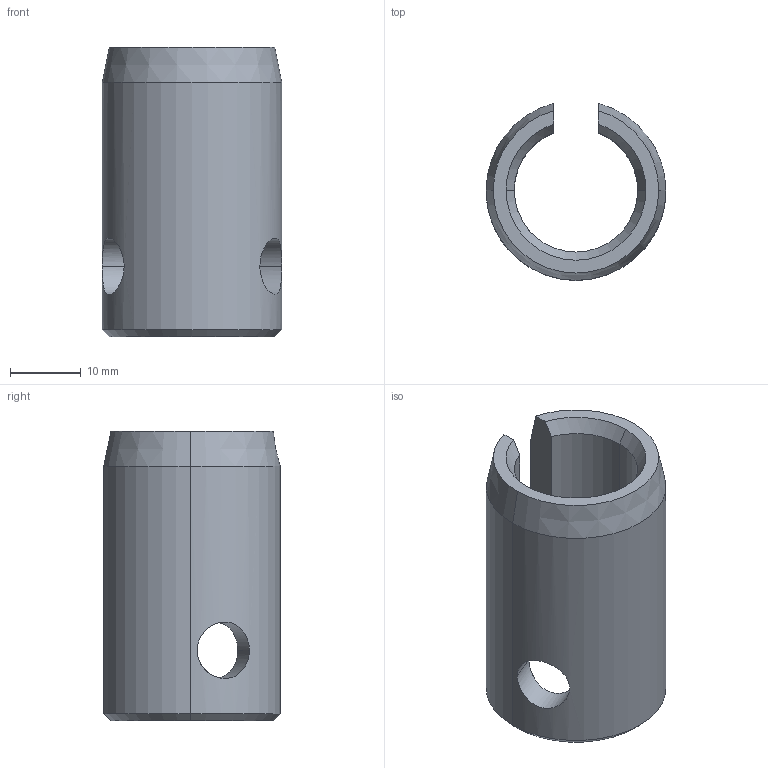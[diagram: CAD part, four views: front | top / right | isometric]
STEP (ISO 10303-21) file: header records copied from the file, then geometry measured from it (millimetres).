
FILE_DESCRIPTION (( 'STEP AP203' ), '1' );
FILE_NAME ('KBSH045P11.STEP', '2023-08-01T03:56:46', ( '' ), ( '' ), 'SwSTEP 2.0', 'SolidWorks 2012', '' );
FILE_SCHEMA (( 'CONFIG_CONTROL_DESIGN' ));
Length unit declared in the file: millimetre
Products named in the file (1): KBSH045P11
Bounding box: 25.4 x 25 x 41 mm (x, y, z)
Volume: 9168.1 mm3; surface area: 5610.3 mm2
Topology: 1 solids, 1 shells, 26 faces, 70 edges, 44 vertices
Faces by surface type: cone 12, cylinder 10, plane 4
Entity records: 1163 total; most frequent: CARTESIAN_POINT 445, ORIENTED_EDGE 140, DIRECTION 128, EDGE_CURVE 70, AXIS2_PLACEMENT_3D 51, VERTEX_POINT 44, EDGE_LOOP 28, ADVANCED_FACE 26
